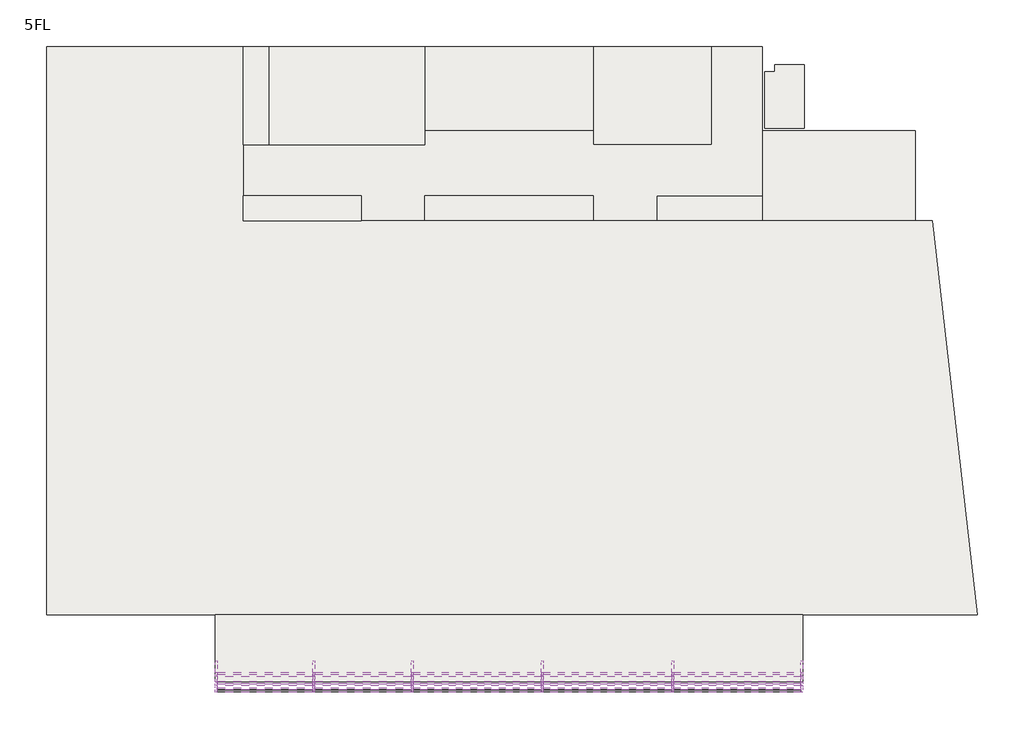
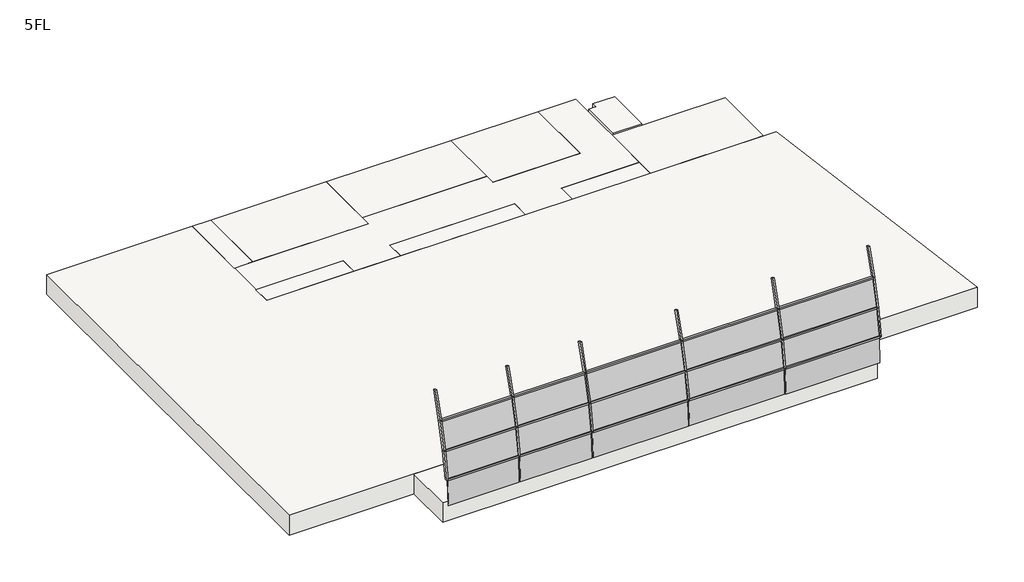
# One storey: 33 members, 15 plates, 12 slabs.
"""IFC4 building model written with IfcOpenShell, lengths in millimetres."""

from ifc_helpers import new_model, si_unit, frame, origin, place, context, project, spatial, polyline, outline, extrude, transform, mapped, element, save
from components import member_70x150_4d24a05e, member_70x150_d36ba8ce, member_70x150_5c89d520, member_70x150_7418113c, member_70x150_542da0a8, member_70x150_d344c11c, member_70x150_fafe4a5a, member_70x150_bcd02411, member_70x150_12938b65, member_70x150_a2cf8814, member_70x150_5efa4815, member_70x150_583fbbe6, member_70x150_7c936580, plate_c8ad6baa, plate_6d650b5f, plate_007849ab, plate_65269aec, plate_1e398689, plate_757115cb, plate_67858f40, plate_8ad4f2da, plate_bf9f031a, plate_cebc02fe, plate_6d09dc41, plate_060ded80

model = new_model("IFC4")

# Units and contexts
model_context = context("Model", 3, world=origin())
ifc_project = project(units=[si_unit("LENGTHUNIT", "METRE", prefix="MILLI")], contexts=[model_context])

# Site, building, storey
site = spatial("IfcSite", under=ifc_project)
building = spatial("IfcBuilding", under=site)
storey = spatial("IfcBuildingStorey", under=building, Name="5FL", Elevation=16600.0)

# Members
placement = place(None, origin())
member_70x150_shape = member_70x150_4d24a05e(model_context)
element("IfcMember", 1, ObjectType="長方形のマリオン : 70x150", at=placement, inside=storey, context=model_context, shape_type="MappedRepresentation", body=[
    mapped(member_70x150_shape, transform((-2015.9784025, -6011.4352857, 19268.2409836), x_axis=(0.0, 0.20856080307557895, 0.9780094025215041), y_axis=(0.0, -0.9780094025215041, 0.20856080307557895), z_axis=(1.0, 0.0, 0.0))),
])
element("IfcMember", 2, ObjectType="長方形のマリオン : 70x150", at=placement, inside=storey, context=model_context, shape_type="MappedRepresentation", body=[
    mapped(member_70x150_shape, transform((-2015.9784025, -6232.5328334, 17935.2456809), x_axis=(0.0, 0.11264724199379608, 0.9936350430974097), y_axis=(0.0, -0.9936350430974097, 0.11264724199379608), z_axis=(1.0, 0.0, 0.0))),
])
element("IfcMember", 3, ObjectType="長方形のマリオン : 70x150", at=placement, inside=storey, context=model_context, shape_type="MappedRepresentation", body=[
    mapped(member_70x150_shape, transform((-2015.9784025, -5678.0908048, 20600.0), x_axis=(0.0, 0.2715787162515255, 0.9624162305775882), y_axis=(0.0, -0.9624162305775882, 0.2715787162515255), z_axis=(1.0, 0.0, 0.0))),
])
member_70x150_2_shape = member_70x150_d36ba8ce(model_context)
element("IfcMember", 4, ObjectType="長方形のマリオン : 70x150", at=placement, inside=storey, context=model_context, shape_type="MappedRepresentation", body=[
    mapped(member_70x150_2_shape, transform((-19380.9784025, -6232.5328334, 17935.2456809), x_axis=(0.0, 0.11264724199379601, 0.9936350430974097), y_axis=(0.0, -0.9936350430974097, 0.11264724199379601), z_axis=(1.0, 0.0, 0.0))),
])
element("IfcMember", 5, ObjectType="長方形のマリオン : 70x150", at=placement, inside=storey, context=model_context, shape_type="MappedRepresentation", body=[
    mapped(member_70x150_2_shape, transform((-19380.9784025, -6011.4352857, 19268.2409836), x_axis=(0.0, 0.20856080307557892, 0.9780094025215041), y_axis=(0.0, -0.9780094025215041, 0.20856080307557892), z_axis=(1.0, 0.0, 0.0))),
])
element("IfcMember", 6, ObjectType="長方形のマリオン : 70x150", at=placement, inside=storey, context=model_context, shape_type="MappedRepresentation", body=[
    mapped(member_70x150_2_shape, transform((-19380.9784025, -5678.0908048, 20600.0), x_axis=(0.0, 0.2715787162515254, 0.9624162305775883), y_axis=(0.0, -0.9624162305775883, 0.2715787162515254), z_axis=(1.0, 0.0, 0.0))),
])
member_70x150_3_shape = member_70x150_5c89d520(model_context)
element("IfcMember", 7, ObjectType="長方形のマリオン : 70x150", at=placement, inside=storey, context=model_context, shape_type="MappedRepresentation", body=[
    mapped(member_70x150_3_shape, transform((-11247.6450692, -6011.4352857, 19268.2409836), x_axis=(0.0, 0.20856080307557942, 0.9780094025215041), y_axis=(0.0, -0.9780094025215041, 0.20856080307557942), z_axis=(1.0, 0.0, 0.0))),
])
element("IfcMember", 8, ObjectType="長方形のマリオン : 70x150", at=placement, inside=storey, context=model_context, shape_type="MappedRepresentation", body=[
    mapped(member_70x150_3_shape, transform((-6614.3117358, -6011.4352857, 19268.2409836), x_axis=(0.0, 0.20856080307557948, 0.9780094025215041), y_axis=(0.0, -0.9780094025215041, 0.20856080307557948), z_axis=(1.0, 0.0, 0.0))),
])
element("IfcMember", 9, ObjectType="長方形のマリオン : 70x150", at=placement, inside=storey, context=model_context, shape_type="MappedRepresentation", body=[
    mapped(member_70x150_3_shape, transform((-6614.3117358, -6232.5328334, 17935.2456809), x_axis=(0.0, 0.11264724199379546, 0.9936350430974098), y_axis=(0.0, -0.9936350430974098, 0.11264724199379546), z_axis=(1.0, 0.0, 0.0))),
])
element("IfcMember", 10, ObjectType="長方形のマリオン : 70x150", at=placement, inside=storey, context=model_context, shape_type="MappedRepresentation", body=[
    mapped(member_70x150_3_shape, transform((-11247.6450692, -6232.5328334, 17935.2456809), x_axis=(0.0, 0.11264724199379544, 0.9936350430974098), y_axis=(0.0, -0.9936350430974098, 0.11264724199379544), z_axis=(1.0, 0.0, 0.0))),
])
element("IfcMember", 11, ObjectType="長方形のマリオン : 70x150", at=placement, inside=storey, context=model_context, shape_type="MappedRepresentation", body=[
    mapped(member_70x150_3_shape, transform((-6614.3117358, -5678.0908048, 20600.0), x_axis=(0.0, 0.27157871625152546, 0.9624162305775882), y_axis=(0.0, -0.9624162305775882, 0.27157871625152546), z_axis=(1.0, 0.0, 0.0))),
])
element("IfcMember", 12, ObjectType="長方形のマリオン : 70x150", at=placement, inside=storey, context=model_context, shape_type="MappedRepresentation", body=[
    mapped(member_70x150_3_shape, transform((-11247.6450692, -5678.0908048, 20600.0), x_axis=(0.0, 0.27157871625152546, 0.9624162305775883), y_axis=(0.0, -0.9624162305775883, 0.27157871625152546), z_axis=(1.0, 0.0, 0.0))),
])
member_70x150_4_shape = member_70x150_7418113c(model_context)
element("IfcMember", 13, ObjectType="長方形のマリオン : 70x150", at=placement, inside=storey, context=model_context, shape_type="MappedRepresentation", body=[
    mapped(member_70x150_4_shape, transform((-15880.9784025, -6011.4352857, 19268.2409836), x_axis=(0.0, 0.208560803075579, 0.9780094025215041), y_axis=(0.0, -0.9780094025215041, 0.208560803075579), z_axis=(1.0, 0.0, 0.0))),
])
element("IfcMember", 14, ObjectType="長方形のマリオン : 70x150", at=placement, inside=storey, context=model_context, shape_type="MappedRepresentation", body=[
    mapped(member_70x150_4_shape, transform((-15880.9784025, -6232.5328334, 17935.2456809), x_axis=(0.0, 0.11264724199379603, 0.9936350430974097), y_axis=(0.0, -0.9936350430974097, 0.11264724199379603), z_axis=(1.0, 0.0, 0.0))),
])
element("IfcMember", 15, ObjectType="長方形のマリオン : 70x150", at=placement, inside=storey, context=model_context, shape_type="MappedRepresentation", body=[
    mapped(member_70x150_4_shape, transform((-15880.9784025, -5678.0908048, 20600.0), x_axis=(0.0, 0.27157871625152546, 0.9624162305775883), y_axis=(0.0, -0.9624162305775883, 0.27157871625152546), z_axis=(1.0, 0.0, 0.0))),
])
member_70x150_5_shape = member_70x150_542da0a8(model_context)
element("IfcMember", 16, ObjectType="長方形のマリオン : 70x150", at=placement, inside=storey, context=model_context, shape_type="MappedRepresentation", body=[
    mapped(member_70x150_5_shape, transform((-15845.9784025, -6232.5328334, 17935.2456809), x_axis=(1.0, 0.0, 0.0), y_axis=(0.0, -0.9865218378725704, 0.1636296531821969), z_axis=(0.0, -0.16362965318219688, -0.9865218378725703))),
])
element("IfcMember", 17, ObjectType="長方形のマリオン : 70x150", at=placement, inside=storey, context=model_context, shape_type="MappedRepresentation", body=[
    mapped(member_70x150_5_shape, transform((-6579.3117358, -6232.5328334, 17935.2456809), x_axis=(1.0, 0.0, 0.0), y_axis=(0.0, -0.9865218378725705, 0.16362965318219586), z_axis=(0.0, -0.16362965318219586, -0.9865218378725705))),
])
element("IfcMember", 18, ObjectType="長方形のマリオン : 70x150", at=placement, inside=storey, context=model_context, shape_type="MappedRepresentation", body=[
    mapped(member_70x150_5_shape, transform((-11212.6450692, -6232.5328334, 17935.2456809), x_axis=(1.0, 0.0, 0.0), y_axis=(0.0, -0.9865218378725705, 0.16362965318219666), z_axis=(0.0, -0.16362965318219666, -0.9865218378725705))),
])
element("IfcMember", 19, ObjectType="長方形のマリオン : 70x150", at=placement, inside=storey, context=model_context, shape_type="MappedRepresentation", body=[
    mapped(member_70x150_5_shape, transform((-19345.9784025, -6232.5328334, 17935.2456809), x_axis=(1.0, 0.0, 0.0), y_axis=(0.0, -0.9865218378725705, 0.16362965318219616), z_axis=(0.0, -0.16362965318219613, -0.9865218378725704))),
])
member_70x150_6_shape = member_70x150_d344c11c(model_context)
element("IfcMember", 20, ObjectType="長方形のマリオン : 70x150", at=placement, inside=storey, context=model_context, shape_type="MappedRepresentation", body=[
    mapped(member_70x150_6_shape, transform((-15845.9784025, -6011.4352857, 19268.2409836), x_axis=(1.0, 0.0, 0.0), y_axis=(0.0, -0.9700730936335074, 0.24281308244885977), z_axis=(0.0, -0.24281308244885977, -0.9700730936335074))),
])
element("IfcMember", 21, ObjectType="長方形のマリオン : 70x150", at=placement, inside=storey, context=model_context, shape_type="MappedRepresentation", body=[
    mapped(member_70x150_6_shape, transform((-6579.3117358, -6011.4352857, 19268.2409836), x_axis=(1.0, 0.0, 0.0), y_axis=(0.0, -0.9700730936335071, 0.24281308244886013), z_axis=(0.0, -0.24281308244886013, -0.9700730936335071))),
])
element("IfcMember", 22, ObjectType="長方形のマリオン : 70x150", at=placement, inside=storey, context=model_context, shape_type="MappedRepresentation", body=[
    mapped(member_70x150_6_shape, transform((-11212.6450692, -6011.4352857, 19268.2409836), x_axis=(1.0, 0.0, 0.0), y_axis=(0.0, -0.9700730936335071, 0.24281308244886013), z_axis=(0.0, -0.24281308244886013, -0.9700730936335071))),
])
element("IfcMember", 23, ObjectType="長方形のマリオン : 70x150", at=placement, inside=storey, context=model_context, shape_type="MappedRepresentation", body=[
    mapped(member_70x150_6_shape, transform((-19345.9784025, -6011.4352857, 19268.2409836), x_axis=(1.0, 0.0, 0.0), y_axis=(0.0, -0.9700730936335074, 0.24281308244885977), z_axis=(0.0, -0.24281308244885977, -0.9700730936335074))),
])
member_70x150_7_shape = member_70x150_fafe4a5a(model_context)
element("IfcMember", 24, ObjectType="長方形のマリオン : 70x150", at=placement, inside=storey, context=model_context, shape_type="MappedRepresentation", body=[
    mapped(member_70x150_7_shape, transform((-15845.9784025, -5678.0908048, 20600.0), x_axis=(1.0, 0.0, 0.0), y_axis=(0.0, -0.956850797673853, 0.2905796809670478), z_axis=(0.0, -0.2905796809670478, -0.956850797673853))),
])
element("IfcMember", 25, ObjectType="長方形のマリオン : 70x150", at=placement, inside=storey, context=model_context, shape_type="MappedRepresentation", body=[
    mapped(member_70x150_7_shape, transform((-6579.3117358, -5678.0908048, 20600.0), x_axis=(1.0, 0.0, 0.0), y_axis=(0.0, -0.9568507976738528, 0.2905796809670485), z_axis=(0.0, -0.2905796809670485, -0.9568507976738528))),
])
element("IfcMember", 26, ObjectType="長方形のマリオン : 70x150", at=placement, inside=storey, context=model_context, shape_type="MappedRepresentation", body=[
    mapped(member_70x150_7_shape, transform((-11212.6450692, -5678.0908048, 20600.0), x_axis=(1.0, 0.0, 0.0), y_axis=(0.0, -0.956850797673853, 0.2905796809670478), z_axis=(0.0, -0.2905796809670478, -0.956850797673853))),
])
element("IfcMember", 27, ObjectType="長方形のマリオン : 70x150", at=placement, inside=storey, context=model_context, shape_type="MappedRepresentation", body=[
    mapped(member_70x150_7_shape, transform((-19345.9784025, -5678.0908048, 20600.0), x_axis=(1.0, 0.0, 0.0), y_axis=(0.0, -0.956850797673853, 0.2905796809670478), z_axis=(0.0, -0.2905796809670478, -0.956850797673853))),
])
member_70x150_8_shape = member_70x150_bcd02411(model_context)
element("IfcMember", 28, ObjectType="長方形のマリオン : 70x150", at=placement, inside=storey, context=model_context, shape_type="MappedRepresentation", body=[
    mapped(member_70x150_8_shape, transform((-1945.9784025, -6232.5328334, 17935.2456809), x_axis=(1.0, 0.0, 0.0), y_axis=(0.0, -0.9865218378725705, 0.16362965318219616), z_axis=(0.0, -0.16362965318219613, -0.9865218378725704))),
])
member_70x150_9_shape = member_70x150_12938b65(model_context)
element("IfcMember", 29, ObjectType="長方形のマリオン : 70x150", at=placement, inside=storey, context=model_context, shape_type="MappedRepresentation", body=[
    mapped(member_70x150_9_shape, transform((-1945.9784025, -6011.4352857, 19268.2409836), x_axis=(1.0, 0.0, 0.0), y_axis=(0.0, -0.9700730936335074, 0.24281308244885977), z_axis=(0.0, -0.24281308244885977, -0.9700730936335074))),
])
member_70x150_10_shape = member_70x150_a2cf8814(model_context)
element("IfcMember", 30, ObjectType="長方形のマリオン : 70x150", at=placement, inside=storey, context=model_context, shape_type="MappedRepresentation", body=[
    mapped(member_70x150_10_shape, transform((-22845.9784025, -5678.0908048, 20600.0), x_axis=(-1.0, 0.0, 0.0), y_axis=(0.0, -0.9700730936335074, 0.24281308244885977), z_axis=(0.0, 0.24281308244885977, 0.9700730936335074))),
])
member_70x150_11_shape = member_70x150_5efa4815(model_context)
element("IfcMember", 31, ObjectType="長方形のマリオン : 70x150", at=placement, inside=storey, context=model_context, shape_type="MappedRepresentation", body=[
    mapped(member_70x150_11_shape, transform((-1945.9784025, -5678.0908048, 20600.0), x_axis=(1.0, 0.0, 0.0), y_axis=(0.0, -0.9568507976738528, 0.2905796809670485), z_axis=(0.0, -0.2905796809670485, -0.9568507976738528))),
])
member_70x150_12_shape = member_70x150_583fbbe6(model_context)
element("IfcMember", 32, ObjectType="長方形のマリオン : 70x150", at=placement, inside=storey, context=model_context, shape_type="MappedRepresentation", body=[
    mapped(member_70x150_12_shape, transform((-22845.9784025, -6011.4352857, 19268.2409836), x_axis=(-1.0, 0.0, 0.0), y_axis=(0.0, -0.9865218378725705, 0.16362965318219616), z_axis=(0.0, 0.16362965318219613, 0.9865218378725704))),
])
member_70x150_13_shape = member_70x150_7c936580(model_context)
element("IfcMember", 33, ObjectType="長方形のマリオン : 70x150", at=placement, inside=storey, context=model_context, shape_type="MappedRepresentation", body=[
    mapped(member_70x150_13_shape, transform((-22845.9784025, -5273.5231859, 21932.2020574), x_axis=(-1.0, 0.0, 0.0), y_axis=(0.0, -0.956850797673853, 0.2905796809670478), z_axis=(0.0, 0.2905796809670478, 0.956850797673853))),
])

# Plates
plate_shape = plate_c8ad6baa(model_context)
element("IfcPlate", 34, ObjectType="システム パネル : 標準", at=placement, inside=storey, context=model_context, shape_type="MappedRepresentation", body=[
    mapped(plate_shape, transform((-21078.4784025, -6298.3766866, 16634.9554087), x_axis=(1.0, 0.0, 0.0), y_axis=(0.0, 0.9987203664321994, -0.050573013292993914), z_axis=(0.0, 0.050573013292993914, 0.9987203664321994))),
])
plate_2_shape = plate_6d650b5f(model_context)
element("IfcPlate", 35, ObjectType="システム パネル : 標準", at=placement, inside=storey, context=model_context, shape_type="MappedRepresentation", body=[
    mapped(plate_2_shape, transform((-21078.4784025, -6002.9368278, 19302.1935419), x_axis=(1.0, 0.0, 0.0), y_axis=(0.0, 0.9700730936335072, -0.24281308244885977), z_axis=(0.0, 0.24281308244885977, 0.9700730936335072))),
])
plate_3_shape = plate_007849ab(model_context)
element("IfcPlate", 36, ObjectType="システム パネル : 標準", at=placement, inside=storey, context=model_context, shape_type="MappedRepresentation", body=[
    mapped(plate_3_shape, transform((-21078.4784025, -6226.8057955, 17969.7739452), x_axis=(1.0, 0.0, 0.0), y_axis=(0.0, 0.9865218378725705, -0.1636296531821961), z_axis=(0.0, 0.1636296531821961, 0.9865218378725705))),
])
plate_4_shape = plate_65269aec(model_context)
element("IfcPlate", 37, ObjectType="システム パネル : 標準", at=placement, inside=storey, context=model_context, shape_type="MappedRepresentation", body=[
    mapped(plate_4_shape, transform((-13529.3117358, -6298.3766866, 16634.9554087), x_axis=(1.0, 0.0, 0.0), y_axis=(0.0, 0.9987203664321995, -0.050573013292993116), z_axis=(0.0, 0.050573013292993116, 0.9987203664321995))),
])
element("IfcPlate", 38, ObjectType="システム パネル : 標準", at=placement, inside=storey, context=model_context, shape_type="MappedRepresentation", body=[
    mapped(plate_4_shape, transform((-8895.9784025, -6298.3766866, 16634.9554087), x_axis=(1.0, 0.0, 0.0), y_axis=(0.0, 0.9987203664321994, -0.05057301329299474), z_axis=(0.0, 0.05057301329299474, 0.9987203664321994))),
])
plate_5_shape = plate_1e398689(model_context)
element("IfcPlate", 39, ObjectType="システム パネル : 標準", at=placement, inside=storey, context=model_context, shape_type="MappedRepresentation", body=[
    mapped(plate_5_shape, transform((-13529.3117358, -6226.8057955, 17969.7739452), x_axis=(1.0, 0.0, 0.0), y_axis=(0.0, 0.9865218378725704, -0.1636296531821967), z_axis=(0.0, 0.1636296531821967, 0.9865218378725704))),
])
element("IfcPlate", 40, ObjectType="システム パネル : 標準", at=placement, inside=storey, context=model_context, shape_type="MappedRepresentation", body=[
    mapped(plate_5_shape, transform((-8895.9784025, -6226.8057955, 17969.7739452), x_axis=(1.0, 0.0, 0.0), y_axis=(0.0, 0.9865218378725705, -0.16362965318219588), z_axis=(0.0, 0.16362965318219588, 0.9865218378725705))),
])
plate_6_shape = plate_757115cb(model_context)
element("IfcPlate", 41, ObjectType="システム パネル : 標準", at=placement, inside=storey, context=model_context, shape_type="MappedRepresentation", body=[
    mapped(plate_6_shape, transform((-13529.3117358, -6002.9368278, 19302.1935419), x_axis=(1.0, 0.0, 0.0), y_axis=(0.0, 0.9700730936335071, -0.24281308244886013), z_axis=(0.0, 0.24281308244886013, 0.9700730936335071))),
])
element("IfcPlate", 42, ObjectType="システム パネル : 標準", at=placement, inside=storey, context=model_context, shape_type="MappedRepresentation", body=[
    mapped(plate_6_shape, transform((-8895.9784025, -6002.9368278, 19302.1935419), x_axis=(1.0, 0.0, 0.0), y_axis=(0.0, 0.9700730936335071, -0.24281308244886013), z_axis=(0.0, 0.24281308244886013, 0.9700730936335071))),
])
plate_7_shape = plate_67858f40(model_context)
element("IfcPlate", 43, ObjectType="システム パネル : 標準", at=placement, inside=storey, context=model_context, shape_type="MappedRepresentation", body=[
    mapped(plate_7_shape, transform((-17595.9784025, -6298.3766866, 16634.9554087), x_axis=(1.0, 0.0, 0.0), y_axis=(0.0, 0.9987203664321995, -0.050573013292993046), z_axis=(0.0, 0.050573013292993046, 0.9987203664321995))),
])
plate_8_shape = plate_8ad4f2da(model_context)
element("IfcPlate", 44, ObjectType="システム パネル : 標準", at=placement, inside=storey, context=model_context, shape_type="MappedRepresentation", body=[
    mapped(plate_8_shape, transform((-17595.9784025, -6226.8057955, 17969.7739452), x_axis=(1.0, 0.0, 0.0), y_axis=(0.0, 0.9865218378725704, -0.1636296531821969), z_axis=(0.0, 0.1636296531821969, 0.9865218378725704))),
])
plate_9_shape = plate_bf9f031a(model_context)
element("IfcPlate", 45, ObjectType="システム パネル : 標準", at=placement, inside=storey, context=model_context, shape_type="MappedRepresentation", body=[
    mapped(plate_9_shape, transform((-17595.9784025, -6002.9368278, 19302.1935419), x_axis=(1.0, 0.0, 0.0), y_axis=(0.0, 0.9700730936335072, -0.24281308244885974), z_axis=(0.0, 0.24281308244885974, 0.9700730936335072))),
])
plate_10_shape = plate_cebc02fe(model_context)
element("IfcPlate", 46, ObjectType="システム パネル : 標準", at=placement, inside=storey, context=model_context, shape_type="MappedRepresentation", body=[
    mapped(plate_10_shape, transform((-4280.1450692, -6298.3766866, 16634.9554087), x_axis=(1.0, 0.0, 0.0), y_axis=(0.0, 0.9987203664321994, -0.05057301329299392), z_axis=(0.0, 0.05057301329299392, 0.9987203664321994))),
])
plate_11_shape = plate_6d09dc41(model_context)
element("IfcPlate", 47, ObjectType="システム パネル : 標準", at=placement, inside=storey, context=model_context, shape_type="MappedRepresentation", body=[
    mapped(plate_11_shape, transform((-4280.1450692, -6226.8057955, 17969.7739452), x_axis=(1.0, 0.0, 0.0), y_axis=(0.0, 0.9865218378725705, -0.16362965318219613), z_axis=(0.0, 0.16362965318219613, 0.9865218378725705))),
])
plate_12_shape = plate_060ded80(model_context)
element("IfcPlate", 48, ObjectType="システム パネル : 標準", at=placement, inside=storey, context=model_context, shape_type="MappedRepresentation", body=[
    mapped(plate_12_shape, transform((-4280.1450692, -6002.9368278, 19302.1935419), x_axis=(1.0, 0.0, 0.0), y_axis=(0.0, 0.9700730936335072, -0.24281308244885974), z_axis=(0.0, 0.24281308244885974, 0.9700730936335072))),
])

# Slabs
element("IfcSlab", 49, ObjectType="企画1000", at=placement, inside=storey, context=model_context, shape_type="SweptSolid", body=[
    extrude(outline(polyline([(-17645.9784025, 11349.6868987), (-17645.9784025, 10449.6868987), (-21845.9784025, 10449.6868987), (-21845.9784025, 11349.6868987), (-17645.9784025, 11349.6868987)])), frame((0.0, 0.0, 15600.0), z_axis=(0.0, 0.0, 1.0), x_axis=(1.0, 0.0, 0.0)), (0.0, 0.0, 1.0), 1000.0),
])
element("IfcSlab", 50, ObjectType="企画1000", at=placement, inside=storey, context=model_context, shape_type="SweptSolid", body=[
    extrude(outline(polyline([(-20945.9784025, 16649.6868987), (-20945.9784025, 13149.6868987), (-21845.9784025, 13149.6868987), (-21845.9784025, 16649.6868987), (-20945.9784025, 16649.6868987)])), frame((0.0, 0.0, 15600.0), z_axis=(0.0, 0.0, 1.0), x_axis=(1.0, 0.0, 0.0)), (0.0, 0.0, 1.0), 1000.0),
])
element("IfcSlab", 51, ObjectType="企画1000", at=placement, inside=storey, context=model_context, shape_type="SweptSolid", body=[
    extrude(outline(polyline([(-9395.9784025, 16649.6868987), (-9395.9784025, 13649.6868987), (-15395.9784025, 13649.6868987), (-15395.9784025, 16649.6868987), (-9395.9784025, 16649.6868987)])), frame((0.0, 0.0, 15600.0), z_axis=(0.0, 0.0, 1.0), x_axis=(1.0, 0.0, 0.0)), (0.0, 0.0, 1.0), 1000.0),
])
element("IfcSlab", 52, ObjectType="企画1000", at=placement, inside=storey, context=model_context, shape_type="SweptSolid", body=[
    extrude(outline(polyline([(-28845.9784025, -3550.3131013), (-28845.9784025, 16649.6868987), (-21845.9784025, 16649.6868987), (-21845.9784025, 10449.6868987), (2661.9595949, 10449.6868987), (4261.9595949, -3550.3131013), (-28845.9784025, -3550.3131013)])), frame((0.0, 0.0, 15600.0), z_axis=(0.0, 0.0, 1.0), x_axis=(1.0, 0.0, 0.0)), (0.0, 0.0, 1.0), 1000.0),
])
element("IfcSlab", 53, ObjectType="企画1000", at=placement, inside=storey, context=model_context, shape_type="SweptSolid", body=[
    extrude(outline(polyline([(-9395.9784025, 11349.6868987), (-9395.9784025, 10449.6868987), (-15395.9784025, 10449.6868987), (-15395.9784025, 11349.6868987), (-9395.9784025, 11349.6868987)])), frame((0.0, 0.0, 15600.0), z_axis=(0.0, 0.0, 1.0), x_axis=(1.0, 0.0, 0.0)), (0.0, 0.0, 1.0), 1000.0),
])
element("IfcSlab", 54, ObjectType="企画1000", at=placement, inside=storey, context=model_context, shape_type="SweptSolid", body=[
    extrude(outline(polyline([(2054.0215975, 13649.6868987), (2054.0215975, 10449.6868987), (-3395.9784025, 10449.6868987), (-3395.9784025, 13649.6868987), (2054.0215975, 13649.6868987)])), frame((0.0, 0.0, 15600.0), z_axis=(0.0, 0.0, 1.0), x_axis=(1.0, 0.0, 0.0)), (0.0, 0.0, 1.0), 1000.0),
])
element("IfcSlab", 55, ObjectType="企画1000", at=placement, inside=storey, context=model_context, shape_type="SweptSolid", body=[
    extrude(outline(polyline([(-15395.9784025, 13149.6868987), (-15395.9784025, 13649.6868987), (-9395.9784025, 13649.6868987), (-9395.9784025, 13149.6868987), (-5195.9784025, 13149.6868987), (-5195.9784025, 16649.6868987), (-3395.9784025, 16649.6868987), (-3395.9784025, 11349.6868987), (-7145.9784025, 11349.6868987), (-7145.9784025, 10449.6868987), (-9395.9784025, 10449.6868987), (-9395.9784025, 11349.6868987), (-15395.9784025, 11349.6868987), (-15395.9784025, 10449.6868987), (-17645.9784025, 10449.6868987), (-17645.9784025, 11349.6868987), (-21845.9784025, 11349.6868987), (-21845.9784025, 13149.6868987), (-15395.9784025, 13149.6868987)])), frame((0.0, 0.0, 15600.0), z_axis=(0.0, 0.0, 1.0), x_axis=(1.0, 0.0, 0.0)), (0.0, 0.0, 1.0), 1000.0),
])
element("IfcSlab", 56, ObjectType="企画1000", at=placement, inside=storey, context=model_context, shape_type="SweptSolid", body=[
    extrude(outline(polyline([(-15395.9784025, 16649.6868987), (-15395.9784025, 13149.6868987), (-20945.9784025, 13149.6868987), (-20945.9784025, 16649.6868987), (-15395.9784025, 16649.6868987)])), frame((0.0, 0.0, 15600.0), z_axis=(0.0, 0.0, 1.0), x_axis=(1.0, 0.0, 0.0)), (0.0, 0.0, 1.0), 1000.0),
])
element("IfcSlab", 57, ObjectType="企画1000", at=placement, inside=storey, context=model_context, shape_type="SweptSolid", body=[
    extrude(outline(polyline([(-5195.9784025, 16649.6868987), (-5195.9784025, 13149.6868987), (-9395.9784025, 13149.6868987), (-9395.9784025, 16649.6868987), (-5195.9784025, 16649.6868987)])), frame((0.0, 0.0, 15600.0), z_axis=(0.0, 0.0, 1.0), x_axis=(1.0, 0.0, 0.0)), (0.0, 0.0, 1.0), 1000.0),
])
element("IfcSlab", 58, ObjectType="企画1000", at=placement, inside=storey, context=model_context, shape_type="SweptSolid", body=[
    extrude(outline(polyline([(-3395.9784025, 11349.6868987), (-3395.9784025, 10449.6868987), (-7145.9784025, 10449.6868987), (-7145.9784025, 11349.6868987), (-3395.9784025, 11349.6868987)])), frame((0.0, 0.0, 15600.0), z_axis=(0.0, 0.0, 1.0), x_axis=(1.0, 0.0, 0.0)), (0.0, 0.0, 1.0), 1000.0),
])
element("IfcSlab", 59, ObjectType="企画1000", at=placement, inside=storey, context=model_context, shape_type="SweptSolid", body=[
    extrude(outline(polyline([(-1945.9784025, -3550.3131013), (-1945.9784025, -5950.3131013), (-22845.9784025, -5950.3131013), (-22845.9784025, -3550.3131013), (-1945.9784025, -3550.3131013)])), frame((0.0, 0.0, 15600.0), z_axis=(0.0, 0.0, 1.0), x_axis=(1.0, 0.0, 0.0)), (0.0, 0.0, 1.0), 1000.0),
])
element("IfcSlab", 60, ObjectType="RC250", at=placement, inside=storey, context=model_context, shape_type="SweptSolid", body=[
    extrude(outline(polyline([(-2945.9784025, 15999.6868987), (-1895.9784025, 15999.6868987), (-1895.9784025, 13749.6868987), (-3295.9784025, 13749.6868987), (-3295.9784025, 15749.6868987), (-2945.9784025, 15749.6868987), (-2945.9784025, 15999.6868987)])), frame((0.0, 0.0, 16350.0), z_axis=(0.0, 0.0, 1.0), x_axis=(1.0, 0.0, 0.0)), (0.0, 0.0, 1.0), 250.0),
])

save(model, "model.ifc")
